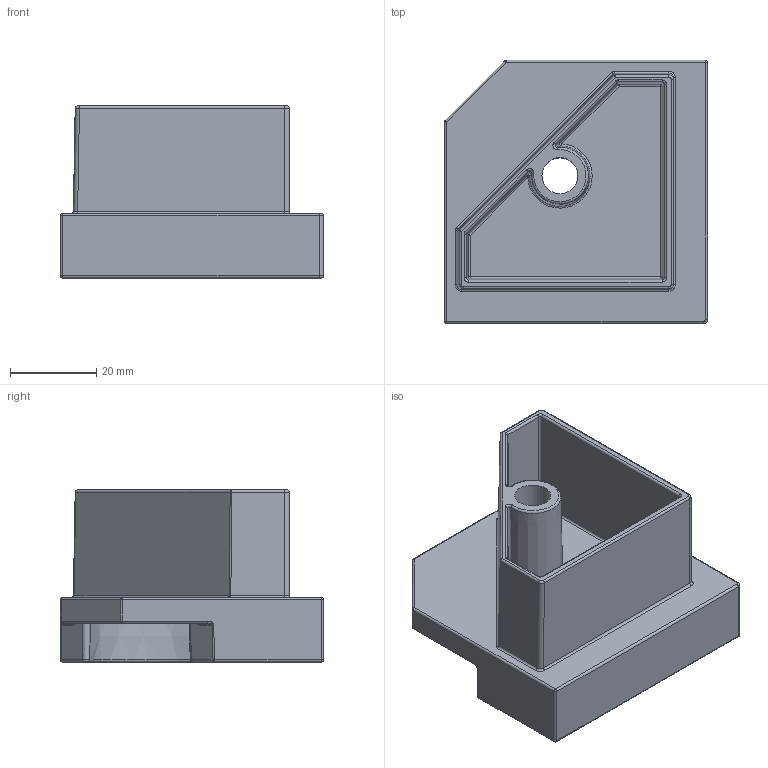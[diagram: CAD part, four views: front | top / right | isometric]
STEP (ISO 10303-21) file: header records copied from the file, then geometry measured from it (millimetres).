
FILE_DESCRIPTION((''),'2;1');
FILE_NAME('X:\Blame charles\Dk wood craft\Cad\Square Leg\DKW001-01.027 Squared Leg Foot.stp','2011-04-05T13:44:59',('Administrator'),(''),'Autodesk Inventor 2010','Autodesk Inventor 2010','');
FILE_SCHEMA(('AUTOMOTIVE_DESIGN { 1 0 10303 214 1 1 1 1 }'));
Length unit declared in the file: millimetre
Products named in the file (1): DKW001-01.027 Squared Leg Foot
Bounding box: 61.2 x 61.2 x 40 mm (x, y, z)
Volume: 32540.2 mm3; surface area: 24251.9 mm2
Topology: 1 solids, 1 shells, 252 faces, 571 edges, 289 vertices
Faces by surface type: cylinder 101, bspline 83, plane 43, sphere 12, torus 8, cone 5
Full cylindrical faces by diameter (mm): 14.38 x1
Entity records: 8595 total; most frequent: CARTESIAN_POINT 3406, DIRECTION 1108, ORIENTED_EDGE 1056, EDGE_CURVE 528, AXIS2_PLACEMENT_3D 454, VERTEX_POINT 288, EDGE_LOOP 264, FACE_OUTER_BOUND 252
